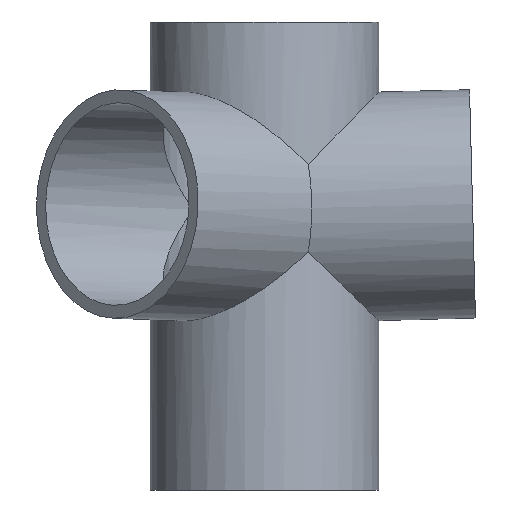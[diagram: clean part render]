
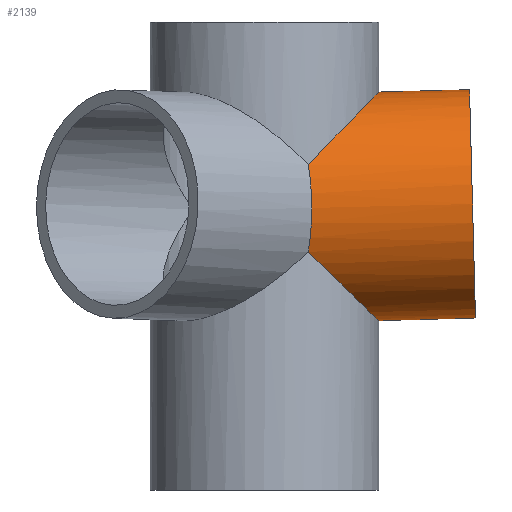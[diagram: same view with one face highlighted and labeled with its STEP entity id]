
A CAD part, left-side view. The second image highlights one B-rep face of the part: STEP entity #2139.
In plain terms, the highlighted cylindrical face has radius 55.2 mm (diameter 110.4 mm), a full revolution.
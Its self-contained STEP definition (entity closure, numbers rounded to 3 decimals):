
#28=FACE_BOUND($,#391,.T.);
#29=FACE_BOUND($,#392,.T.);
#30=FACE_BOUND($,#393,.T.);
#31=FACE_BOUND($,#394,.T.);
#41=B_SPLINE_CURVE_WITH_KNOTS($,3,(#3692,#3693,#3694,#3695,#3696,#3697,
#3698,#3699,#3700,#3701,#3702,#3703),.UNSPECIFIED.,.F.,.F.,(4,2,2,2,2,4),
(11.766,12.261,13.457,14.644,15.831,
15.993),.UNSPECIFIED.);
#42=ELLIPSE($,#2163,57.899,55.2);
#54=ELLIPSE($,#2337,79.107,55.2);
#59=ELLIPSE($,#2342,77.062,55.2);
#73=ELLIPSE($,#2383,183.631,55.2);
#81=ELLIPSE($,#2413,183.631,55.2);
#254=FACE_OUTER_BOUND($,#390,.T.);
#390=EDGE_LOOP($,(#1777));
#391=EDGE_LOOP($,(#1778,#1779,#1780,#1781,#1782,#1783));
#392=EDGE_LOOP($,(#1784,#1785,#1786,#1787));
#393=EDGE_LOOP($,(#1788,#1789,#1790,#1791));
#394=EDGE_LOOP($,(#1792,#1793,#1794,#1795));
#501=LINE($,#3487,#628);
#504=LINE($,#3506,#631);
#506=LINE($,#3520,#633);
#507=LINE($,#3524,#634);
#528=LINE($,#3664,#655);
#529=LINE($,#3666,#656);
#628=VECTOR($,#2820,3.5);
#631=VECTOR($,#2841,3.5);
#633=VECTOR($,#2859,3.5);
#634=VECTOR($,#2864,3.5);
#655=VECTOR($,#3035,3.5);
#656=VECTOR($,#3036,3.5);
#746=CIRCLE($,#2304,55.2);
#752=CIRCLE($,#2313,55.2);
#768=CIRCLE($,#2388,55.2);
#769=CIRCLE($,#2390,55.2);
#770=CIRCLE($,#2392,55.2);
#773=CIRCLE($,#2397,55.2);
#775=CIRCLE($,#2419,55.2);
#787=VERTEX_POINT($,#3145);
#788=VERTEX_POINT($,#3147);
#902=VERTEX_POINT($,#3480);
#905=VERTEX_POINT($,#3485);
#907=VERTEX_POINT($,#3491);
#909=VERTEX_POINT($,#3499);
#912=VERTEX_POINT($,#3504);
#914=VERTEX_POINT($,#3510);
#916=VERTEX_POINT($,#3518);
#917=VERTEX_POINT($,#3522);
#929=VERTEX_POINT($,#3572);
#930=VERTEX_POINT($,#3574);
#934=VERTEX_POINT($,#3585);
#935=VERTEX_POINT($,#3588);
#949=VERTEX_POINT($,#3658);
#950=VERTEX_POINT($,#3659);
#951=VERTEX_POINT($,#3663);
#952=VERTEX_POINT($,#3665);
#955=VERTEX_POINT($,#3706);
#972=EDGE_CURVE($,#788,#787,#42,.T.);
#1137=EDGE_CURVE($,#905,#902,#501,.T.);
#1140=EDGE_CURVE($,#905,#907,#746,.T.);
#1146=EDGE_CURVE($,#912,#909,#504,.T.);
#1149=EDGE_CURVE($,#912,#914,#752,.T.);
#1153=EDGE_CURVE($,#907,#916,#506,.T.);
#1155=EDGE_CURVE($,#914,#917,#507,.T.);
#1176=EDGE_CURVE($,#929,#930,#54,.T.);
#1185=EDGE_CURVE($,#934,#935,#59,.T.);
#1214=EDGE_CURVE($,#787,#930,#73,.T.);
#1216=EDGE_CURVE($,#917,#909,#768,.T.);
#1217=EDGE_CURVE($,#916,#902,#769,.T.);
#1218=EDGE_CURVE($,#949,#950,#770,.T.);
#1220=EDGE_CURVE($,#950,#951,#528,.T.);
#1221=EDGE_CURVE($,#952,#949,#529,.T.);
#1223=EDGE_CURVE($,#951,#952,#773,.T.);
#1231=EDGE_CURVE($,#934,#788,#81,.T.);
#1233=EDGE_CURVE($,#929,#935,#41,.T.);
#1234=EDGE_CURVE($,#955,#955,#775,.T.);
#1777=ORIENTED_EDGE($,*,*,#1234,.F.);
#1778=ORIENTED_EDGE($,*,*,#1176,.F.);
#1779=ORIENTED_EDGE($,*,*,#1233,.T.);
#1780=ORIENTED_EDGE($,*,*,#1185,.F.);
#1781=ORIENTED_EDGE($,*,*,#1231,.T.);
#1782=ORIENTED_EDGE($,*,*,#972,.T.);
#1783=ORIENTED_EDGE($,*,*,#1214,.T.);
#1784=ORIENTED_EDGE($,*,*,#1155,.T.);
#1785=ORIENTED_EDGE($,*,*,#1216,.T.);
#1786=ORIENTED_EDGE($,*,*,#1146,.F.);
#1787=ORIENTED_EDGE($,*,*,#1149,.T.);
#1788=ORIENTED_EDGE($,*,*,#1153,.T.);
#1789=ORIENTED_EDGE($,*,*,#1217,.T.);
#1790=ORIENTED_EDGE($,*,*,#1137,.F.);
#1791=ORIENTED_EDGE($,*,*,#1140,.T.);
#1792=ORIENTED_EDGE($,*,*,#1221,.T.);
#1793=ORIENTED_EDGE($,*,*,#1218,.T.);
#1794=ORIENTED_EDGE($,*,*,#1220,.T.);
#1795=ORIENTED_EDGE($,*,*,#1223,.T.);
#1896=CYLINDRICAL_SURFACE($,#2418,55.2);
#2139=ADVANCED_FACE($,(#254,#28,#29,#30,#31),#1896,.T.);
#2163=AXIS2_PLACEMENT_3D($,#3148,#2460,#2461);
#2304=AXIS2_PLACEMENT_3D($,#3493,#2827,#2828);
#2313=AXIS2_PLACEMENT_3D($,#3512,#2848,#2849);
#2337=AXIS2_PLACEMENT_3D($,#3575,#2909,#2910);
#2342=AXIS2_PLACEMENT_3D($,#3589,#2923,#2924);
#2383=AXIS2_PLACEMENT_3D($,#3649,#3011,#3012);
#2388=AXIS2_PLACEMENT_3D($,#3654,#3021,#3022);
#2390=AXIS2_PLACEMENT_3D($,#3656,#3025,#3026);
#2392=AXIS2_PLACEMENT_3D($,#3660,#3029,#3030);
#2397=AXIS2_PLACEMENT_3D($,#3669,#3041,#3042);
#2413=AXIS2_PLACEMENT_3D($,#3687,#3074,#3075);
#2418=AXIS2_PLACEMENT_3D($,#3705,#3084,#3085);
#2419=AXIS2_PLACEMENT_3D($,#3707,#3086,#3087);
#2460=DIRECTION('center_axis',(-0.301,-0.954,0.));
#2461=DIRECTION('ref_axis',(0.95,-0.3,0.087));
#2820=DIRECTION($,(0.,1.,-0.026));
#2827=DIRECTION('center_axis',(0.,-1.,0.026));
#2828=DIRECTION('ref_axis',(1.,0.,0.));
#2841=DIRECTION($,(0.,1.,-0.026));
#2848=DIRECTION('center_axis',(0.,-1.,0.026));
#2849=DIRECTION('ref_axis',(1.,0.,0.));
#2859=DIRECTION($,(0.,1.,-0.026));
#2864=DIRECTION($,(0.,1.,-0.026));
#2909=DIRECTION('center_axis',(0.,0.716,0.698));
#2910=DIRECTION('ref_axis',(0.,0.698,-0.716));
#2923=DIRECTION('center_axis',(0.,0.698,-0.716));
#2924=DIRECTION('ref_axis',(0.,-0.716,-0.698));
#3011=DIRECTION('center_axis',(-0.954,0.301,0.));
#3012=DIRECTION('ref_axis',(0.301,0.953,-0.027));
#3021=DIRECTION('center_axis',(0.,1.,-0.026));
#3022=DIRECTION('ref_axis',(1.,0.,0.));
#3025=DIRECTION('center_axis',(0.,1.,-0.026));
#3026=DIRECTION('ref_axis',(1.,0.,0.));
#3029=DIRECTION('center_axis',(0.,1.,-0.026));
#3030=DIRECTION('ref_axis',(1.,0.,0.));
#3035=DIRECTION($,(0.,-1.,0.026));
#3036=DIRECTION($,(0.,1.,-0.026));
#3041=DIRECTION('center_axis',(0.,-1.,0.026));
#3042=DIRECTION('ref_axis',(1.,0.,0.));
#3074=DIRECTION('center_axis',(-0.954,0.301,0.));
#3075=DIRECTION('ref_axis',(0.301,0.953,-0.027));
#3084=DIRECTION('center_axis',(0.,1.,-0.026));
#3085=DIRECTION('ref_axis',(1.,0.,0.));
#3086=DIRECTION('center_axis',(0.,-1.,0.026));
#3087=DIRECTION('ref_axis',(1.,0.,0.));
#3145=CARTESIAN_POINT('',(52.119,-18.268,41.169));
#3147=CARTESIAN_POINT('',(52.119,-18.268,4.788));
#3148=CARTESIAN_POINT('Origin',(0.,-1.835,22.548));
#3480=CARTESIAN_POINT('',(50.254,-37.732,0.641));
#3485=CARTESIAN_POINT('',(50.254,-41.231,0.733));
#3487=CARTESIAN_POINT($,(50.254,-41.231,0.733));
#3491=CARTESIAN_POINT('',(50.948,-40.077,44.801));
#3493=CARTESIAN_POINT('Origin',(0.,-40.633,23.564));
#3499=CARTESIAN_POINT('',(51.965,-47.265,5.112));
#3504=CARTESIAN_POINT('',(51.965,-50.764,5.203));
#3506=CARTESIAN_POINT($,(51.965,-50.764,5.203));
#3510=CARTESIAN_POINT('',(52.981,-49.871,39.304));
#3512=CARTESIAN_POINT('Origin',(0.,-50.276,23.817));
#3518=CARTESIAN_POINT('',(50.948,-36.578,44.709));
#3520=CARTESIAN_POINT($,(50.948,-40.077,44.801));
#3522=CARTESIAN_POINT('',(52.981,-46.372,39.213));
#3524=CARTESIAN_POINT($,(52.981,-49.871,39.304));
#3572=CARTESIAN_POINT('',(-51.004,-21.109,44.169));
#3574=CARTESIAN_POINT('',(52.645,-16.599,39.539));
#3575=CARTESIAN_POINT('Origin',(0.,0.,22.5));
#3585=CARTESIAN_POINT('',(52.645,-16.599,6.33));
#3588=CARTESIAN_POINT('',(-50.992,-21.14,1.906));
#3589=CARTESIAN_POINT('Origin',(0.,0.,22.5));
#3649=CARTESIAN_POINT('Origin',(0.,-183.568,27.307));
#3654=CARTESIAN_POINT('Origin',(0.,-46.777,23.725));
#3656=CARTESIAN_POINT('Origin',(0.,-37.134,23.472));
#3658=CARTESIAN_POINT('',(49.239,-26.837,48.163));
#3659=CARTESIAN_POINT('',(49.152,-28.148,-1.893));
#3660=CARTESIAN_POINT('Origin',(0.,-27.491,23.22));
#3663=CARTESIAN_POINT('',(49.152,-31.647,-1.801));
#3664=CARTESIAN_POINT($,(49.152,-28.148,-1.893));
#3665=CARTESIAN_POINT('',(49.239,-30.336,48.255));
#3666=CARTESIAN_POINT($,(49.239,-26.837,48.163));
#3669=CARTESIAN_POINT('Origin',(0.,-30.989,23.311));
#3687=CARTESIAN_POINT('Origin',(0.,-183.568,27.307));
#3692=CARTESIAN_POINT('Ctrl Pts',(-51.004,-21.109,44.169));
#3693=CARTESIAN_POINT('Ctrl Pts',(-51.657,-21.381,42.599));
#3694=CARTESIAN_POINT('Ctrl Pts',(-52.236,-21.622,40.998));
#3695=CARTESIAN_POINT('Ctrl Pts',(-53.951,-22.337,35.467));
#3696=CARTESIAN_POINT('Ctrl Pts',(-54.711,-22.655,31.44));
#3697=CARTESIAN_POINT('Ctrl Pts',(-55.34,-22.922,23.529));
#3698=CARTESIAN_POINT('Ctrl Pts',(-55.23,-22.88,19.448));
#3699=CARTESIAN_POINT('Ctrl Pts',(-54.091,-22.415,11.342));
#3700=CARTESIAN_POINT('Ctrl Pts',(-53.062,-21.992,7.318));
#3701=CARTESIAN_POINT('Ctrl Pts',(-51.413,-21.314,2.95));
#3702=CARTESIAN_POINT('Ctrl Pts',(-51.206,-21.228,2.426));
#3703=CARTESIAN_POINT('Ctrl Pts',(-50.992,-21.14,1.906));
#3705=CARTESIAN_POINT('Origin',(0.,-100.466,25.131));
#3706=CARTESIAN_POINT('',(-55.2,-100.466,25.131));
#3707=CARTESIAN_POINT('Origin',(0.,-100.466,25.131));
